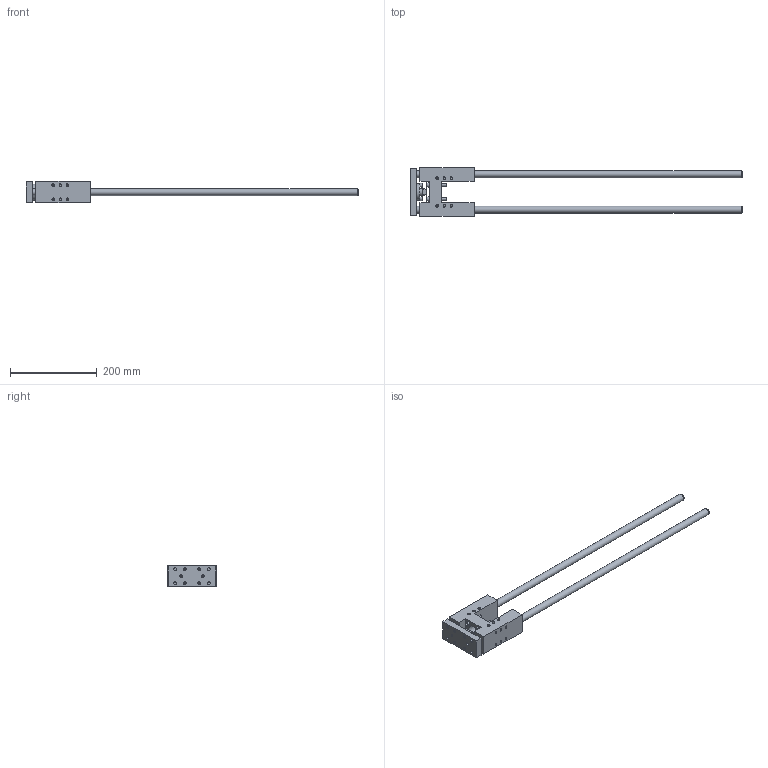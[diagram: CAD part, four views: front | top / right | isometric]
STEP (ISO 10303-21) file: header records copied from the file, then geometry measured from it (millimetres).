
FILE_DESCRIPTION( ( 'STEP AP214' ), '1' );
FILE_NAME( 'U:/Etudes/Top Solid/BIBLIO 3D AVM/TOP/PNEUMATIQUE/GUIDAGES/Type 32 (en H)/R_Renforcée/324R9_30.step', '2005-05-27T08:53:49', ( ' ' ), ( ' ' ), 'XStep 1.0', ' ', ' ' );
FILE_SCHEMA( ( 'automotive_design' ) );
Length unit declared in the file: metre
Products named in the file (2): 1; 2
Bounding box: 767 x 112 x 49 mm (x, y, z)
Volume: 760209.4 mm3; surface area: 172488.2 mm2
Topology: 2 solids, 5 shells, 269 faces, 602 edges, 401 vertices
Faces by surface type: plane 128, cylinder 96, cone 45
Full cylindrical faces by diameter (mm): 4.918 x32, 5 x4, 5.5 x2, 6 x16, 6.2 x12, 6.5 x4, 6.6 x4, 8.5 x2, 8.647 x2, 10 x4, 11 x4, 16 x5, 18 x1, 22.8 x1, 25 x1, 30 x1, 38 x1
Entity records: 8627 total; most frequent: CARTESIAN_POINT 1195, DIRECTION 1138, ORIENTED_EDGE 772, EDGE_LOOP 500, AXIS2_PLACEMENT_3D 487, EDGE_CURVE 386, FACE_OUTER_BOUND 365, VERTEX_POINT 340
